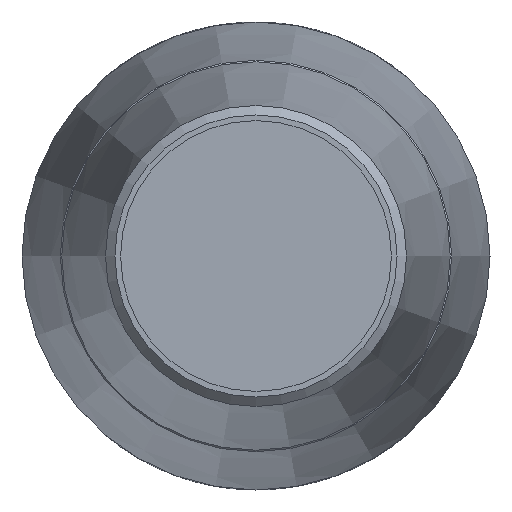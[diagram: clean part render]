
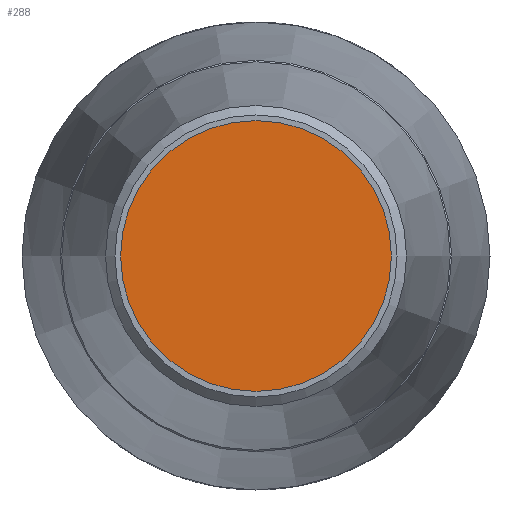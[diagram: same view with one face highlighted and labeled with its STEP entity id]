
A CAD part, left-side view. The second image highlights one B-rep face of the part: STEP entity #288.
In plain terms, the highlighted planar face has unit normal (-1, 0, 0).
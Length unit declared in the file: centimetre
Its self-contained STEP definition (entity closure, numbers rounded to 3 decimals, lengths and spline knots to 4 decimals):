
#42=PLANE('',#323);
#73=FACE_OUTER_BOUND('',#104,.T.);
#104=EDGE_LOOP('',(#210));
#132=CIRCLE('',#322,3.125);
#148=VERTEX_POINT('',#455);
#172=EDGE_CURVE('',#148,#148,#132,.T.);
#210=ORIENTED_EDGE('',*,*,#172,.T.);
#288=ADVANCED_FACE('',(#73),#42,.T.);
#322=AXIS2_PLACEMENT_3D('',#456,#383,#384);
#323=AXIS2_PLACEMENT_3D('',#457,#385,#386);
#383=DIRECTION('center_axis',(-1.,0.,0.));
#384=DIRECTION('ref_axis',(0.,0.,1.));
#385=DIRECTION('center_axis',(-1.,0.,0.));
#386=DIRECTION('ref_axis',(0.,0.,1.));
#455=CARTESIAN_POINT('',(-29.7,-3.125,0.));
#456=CARTESIAN_POINT('Origin',(-29.7,0.,0.));
#457=CARTESIAN_POINT('Origin',(-29.7,0.,0.));
